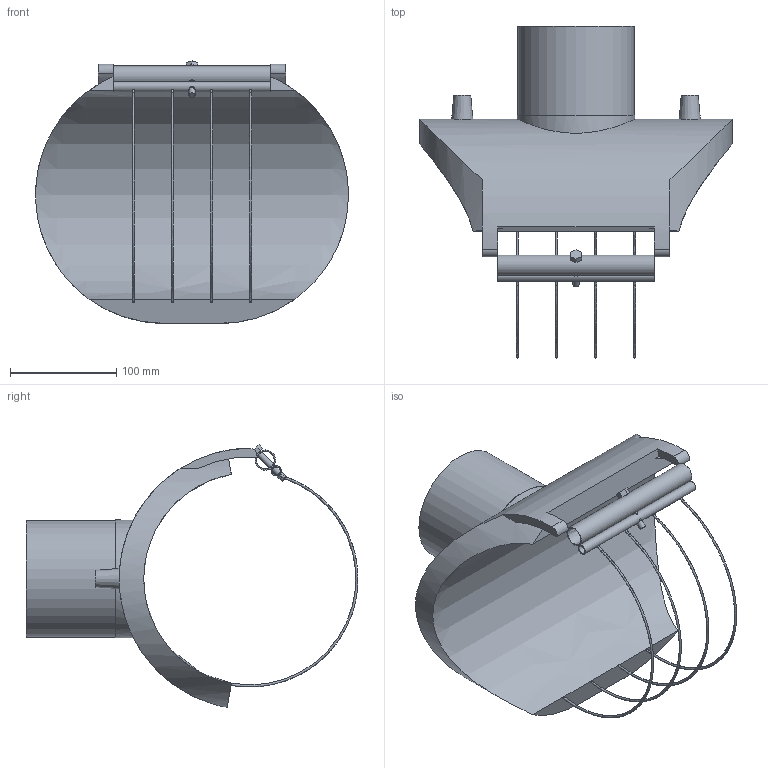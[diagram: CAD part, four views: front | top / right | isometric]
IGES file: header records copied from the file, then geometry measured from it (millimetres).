
Global section: file name: 4958X4200110T.ipt; native system: Autodesk Inventor 2019; preprocessor: unknown; author: KIM; date: 20201215.122044; units: millimetre
Bounding box: 295 x 313 x 247.76 mm (x, y, z)
Volume: 2074236.3 mm3; surface area: 277016.7 mm2
Topology: 1 solids, 1 shells, 61 faces, 167 edges, 110 vertices
Faces by surface type: plane 25, cylinder 19, revolution 15, cone 2
Full cylindrical faces by diameter (mm): 6 x3, 9.6 x1, 16 x1, 19.2 x1, 110 x1, 111 x1
